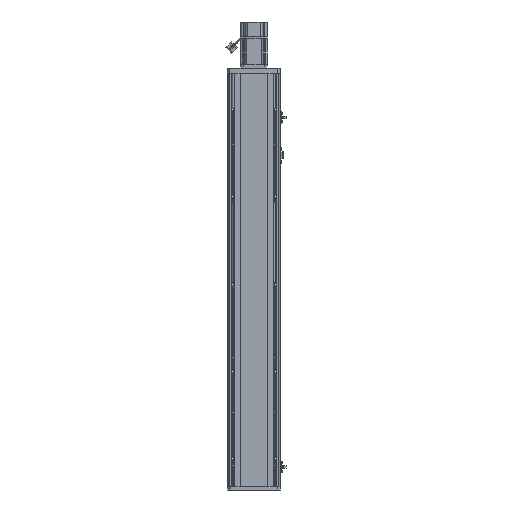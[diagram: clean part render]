
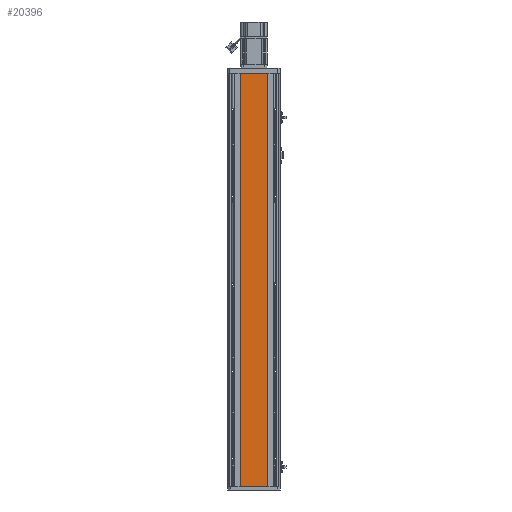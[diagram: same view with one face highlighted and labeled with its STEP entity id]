
A CAD part, front view. The second image highlights one B-rep face of the part: STEP entity #20396.
In plain terms, the highlighted planar face has unit normal (0, -1, 0).
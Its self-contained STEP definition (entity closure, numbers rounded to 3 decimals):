
#899 = EDGE_CURVE ( 'NONE', #92896, #75884, #6274, .T. ) ;
#1574 = DIRECTION ( 'NONE',  ( 0., 0., 1. ) ) ;
#4934 = PLANE ( 'NONE',  #78990 ) ;
#6274 = LINE ( 'NONE', #10829, #78414 ) ;
#6951 = DIRECTION ( 'NONE',  ( -1., 0., 0. ) ) ;
#8318 = FACE_OUTER_BOUND ( 'NONE', #62841, .T. ) ;
#10829 = CARTESIAN_POINT ( 'NONE',  ( 30., 0., 0. ) ) ;
#13192 = ORIENTED_EDGE ( 'NONE', *, *, #899, .T. ) ;
#13693 = DIRECTION ( 'NONE',  ( -1., 0., 0. ) ) ;
#17252 = CARTESIAN_POINT ( 'NONE',  ( -30., 0., -946.5 ) ) ;
#19892 = CARTESIAN_POINT ( 'NONE',  ( 30., 0., 0. ) ) ;
#20396 = ADVANCED_FACE ( 'NONE', ( #8318 ), #4934, .F. ) ;
#27408 = DIRECTION ( 'NONE',  ( 0., 0., 1. ) ) ;
#39748 = ORIENTED_EDGE ( 'NONE', *, *, #73845, .F. ) ;
#41148 = VECTOR ( 'NONE', #27408, 1000. ) ;
#44104 = EDGE_CURVE ( 'NONE', #46338, #75884, #98628, .T. ) ;
#46338 = VERTEX_POINT ( 'NONE', #17252 ) ;
#47789 = ORIENTED_EDGE ( 'NONE', *, *, #100361, .T. ) ;
#53637 = CARTESIAN_POINT ( 'NONE',  ( -30., 0., -946.5 ) ) ;
#62047 = CARTESIAN_POINT ( 'NONE',  ( 30., 0., -946.5 ) ) ;
#62841 = EDGE_LOOP ( 'NONE', ( #13192, #89716, #39748, #47789 ) ) ;
#64314 = LINE ( 'NONE', #62047, #41148 ) ;
#65815 = DIRECTION ( 'NONE',  ( 0., 1., 0. ) ) ;
#67848 = CARTESIAN_POINT ( 'NONE',  ( 30., 0., -946.5 ) ) ;
#67950 = LINE ( 'NONE', #67848, #108802 ) ;
#72322 = CARTESIAN_POINT ( 'NONE',  ( 30., 0., -946.5 ) ) ;
#73845 = EDGE_CURVE ( 'NONE', #108063, #46338, #67950, .T. ) ;
#75884 = VERTEX_POINT ( 'NONE', #103242 ) ;
#78414 = VECTOR ( 'NONE', #97988, 1000. ) ;
#78990 = AXIS2_PLACEMENT_3D ( 'NONE', #91691, #65815, #13693 ) ;
#89716 = ORIENTED_EDGE ( 'NONE', *, *, #44104, .F. ) ;
#91691 = CARTESIAN_POINT ( 'NONE',  ( 30., 0., -946.5 ) ) ;
#92896 = VERTEX_POINT ( 'NONE', #19892 ) ;
#97988 = DIRECTION ( 'NONE',  ( -1., 0., 0. ) ) ;
#98628 = LINE ( 'NONE', #53637, #101386 ) ;
#100361 = EDGE_CURVE ( 'NONE', #108063, #92896, #64314, .T. ) ;
#101386 = VECTOR ( 'NONE', #1574, 1000. ) ;
#103242 = CARTESIAN_POINT ( 'NONE',  ( -30., 0., 0. ) ) ;
#108063 = VERTEX_POINT ( 'NONE', #72322 ) ;
#108802 = VECTOR ( 'NONE', #6951, 1000. ) ;
